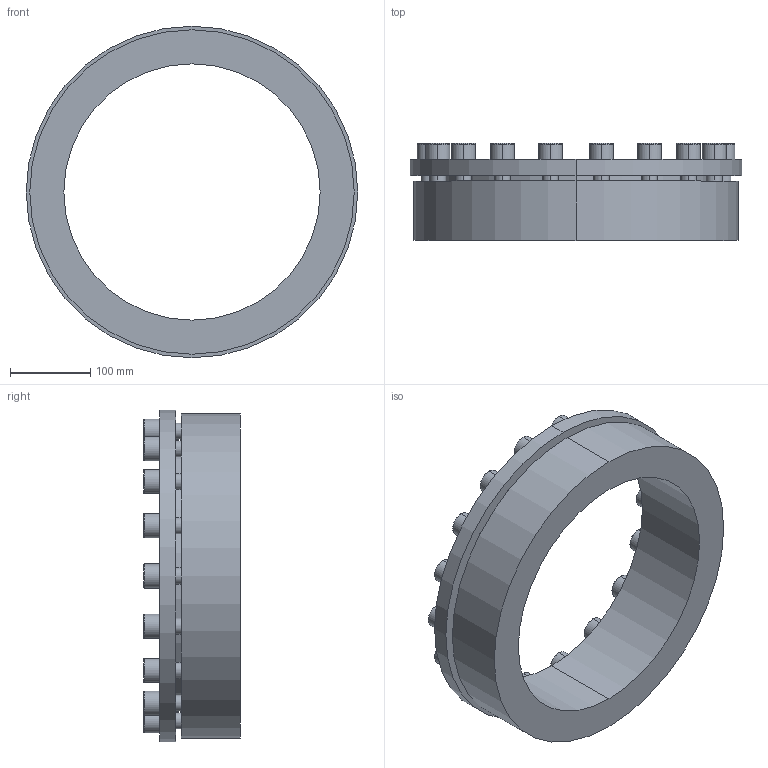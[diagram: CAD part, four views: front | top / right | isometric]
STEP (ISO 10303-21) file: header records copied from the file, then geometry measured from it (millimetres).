
FILE_DESCRIPTION (( 'STEP AP203' ), '1' );
FILE_NAME ('PL-H6 320-405.STEP', '2021-10-23T01:40:57', ( '' ), ( '' ), 'SwSTEP 2.0', 'SolidWorks 2018', '' );
FILE_SCHEMA (( 'CONFIG_CONTROL_DESIGN' ));
Length unit declared in the file: millimetre
Products named in the file (1): PL-H6 320-405
Bounding box: 414 x 121 x 414 mm (x, y, z)
Volume: 4975447.2 mm3; surface area: 457148.3 mm2
Topology: 1 solids, 1 shells, 264 faces, 636 edges, 412 vertices
Faces by surface type: plane 148, cylinder 80, torus 36
Entity records: 7857 total; most frequent: DIRECTION 1398, CARTESIAN_POINT 1313, ORIENTED_EDGE 1272, EDGE_CURVE 636, AXIS2_PLACEMENT_3D 497, VERTEX_POINT 412, VECTOR 404, LINE 404
